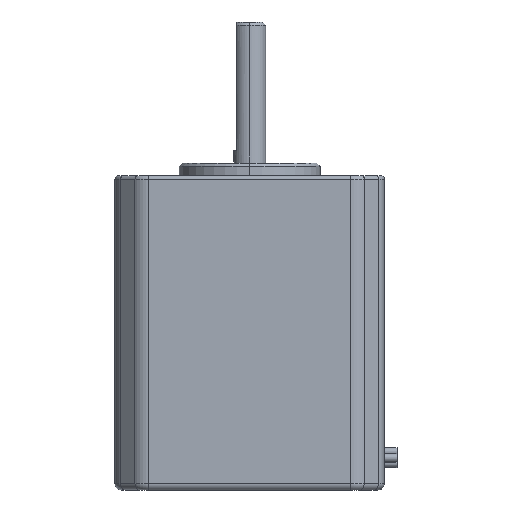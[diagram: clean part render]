
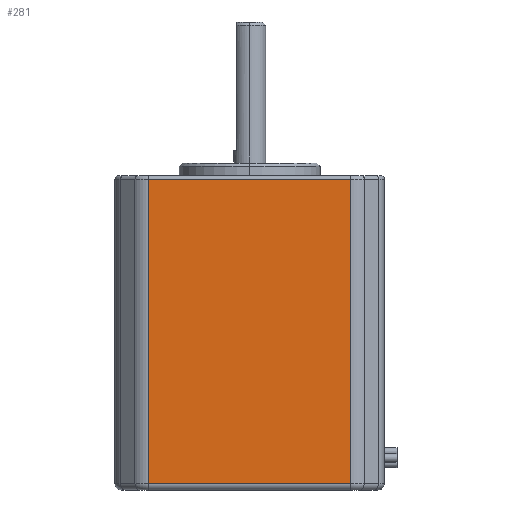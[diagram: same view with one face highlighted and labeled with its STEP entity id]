
A CAD part, left-side view. The second image highlights one B-rep face of the part: STEP entity #281.
In plain terms, the highlighted planar face has unit normal (-1, 0, 0).
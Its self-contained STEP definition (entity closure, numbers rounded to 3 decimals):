
#25 = ORIENTED_EDGE ( 'NONE', *, *, #1252, .T. ) ;
#112 = VERTEX_POINT ( 'NONE', #1218 ) ;
#176 = VECTOR ( 'NONE', #2229, 1000. ) ;
#242 = LINE ( 'NONE', #2212, #176 ) ;
#271 = ORIENTED_EDGE ( 'NONE', *, *, #1749, .T. ) ;
#281 = ADVANCED_FACE ( 'NONE', ( #1469 ), #2351, .F. ) ;
#318 = VERTEX_POINT ( 'NONE', #1718 ) ;
#319 = CARTESIAN_POINT ( 'NONE',  ( -21., -21., 24. ) ) ;
#459 = DIRECTION ( 'NONE',  ( 0., 0., -1. ) ) ;
#558 = EDGE_CURVE ( 'NONE', #318, #112, #242, .T. ) ;
#671 = AXIS2_PLACEMENT_3D ( 'NONE', #1299, #1132, #1909 ) ;
#719 = DIRECTION ( 'NONE',  ( 0., 1., 0. ) ) ;
#756 = EDGE_CURVE ( 'NONE', #112, #2178, #1662, .T. ) ;
#807 = VERTEX_POINT ( 'NONE', #2364 ) ;
#830 = VECTOR ( 'NONE', #459, 1000. ) ;
#937 = EDGE_LOOP ( 'NONE', ( #1137, #271, #25, #939 ) ) ;
#939 = ORIENTED_EDGE ( 'NONE', *, *, #558, .T. ) ;
#1002 = LINE ( 'NONE', #319, #1198 ) ;
#1132 = DIRECTION ( 'NONE',  ( 1., 0., 0. ) ) ;
#1137 = ORIENTED_EDGE ( 'NONE', *, *, #756, .T. ) ;
#1198 = VECTOR ( 'NONE', #719, 1000. ) ;
#1218 = CARTESIAN_POINT ( 'NONE',  ( -21., -15.757, -23.5 ) ) ;
#1252 = EDGE_CURVE ( 'NONE', #807, #318, #2528, .T. ) ;
#1299 = CARTESIAN_POINT ( 'NONE',  ( -21., -21., 24.5 ) ) ;
#1462 = CARTESIAN_POINT ( 'NONE',  ( -21., 15.757, -24.5 ) ) ;
#1469 = FACE_OUTER_BOUND ( 'NONE', #937, .T. ) ;
#1662 = LINE ( 'NONE', #1750, #2621 ) ;
#1718 = CARTESIAN_POINT ( 'NONE',  ( -21., 15.757, -23.5 ) ) ;
#1749 = EDGE_CURVE ( 'NONE', #2178, #807, #1002, .T. ) ;
#1750 = CARTESIAN_POINT ( 'NONE',  ( -21., -15.757, 24.5 ) ) ;
#1909 = DIRECTION ( 'NONE',  ( 0., 0., -1. ) ) ;
#1913 = CARTESIAN_POINT ( 'NONE',  ( -21., -15.757, 24. ) ) ;
#2178 = VERTEX_POINT ( 'NONE', #1913 ) ;
#2212 = CARTESIAN_POINT ( 'NONE',  ( -21., -15.757, -23.5 ) ) ;
#2229 = DIRECTION ( 'NONE',  ( 0., -1., 0. ) ) ;
#2351 = PLANE ( 'NONE',  #671 ) ;
#2364 = CARTESIAN_POINT ( 'NONE',  ( -21., 15.757, 24. ) ) ;
#2528 = LINE ( 'NONE', #1462, #830 ) ;
#2582 = DIRECTION ( 'NONE',  ( 0., 0., 1. ) ) ;
#2621 = VECTOR ( 'NONE', #2582, 1000. ) ;
